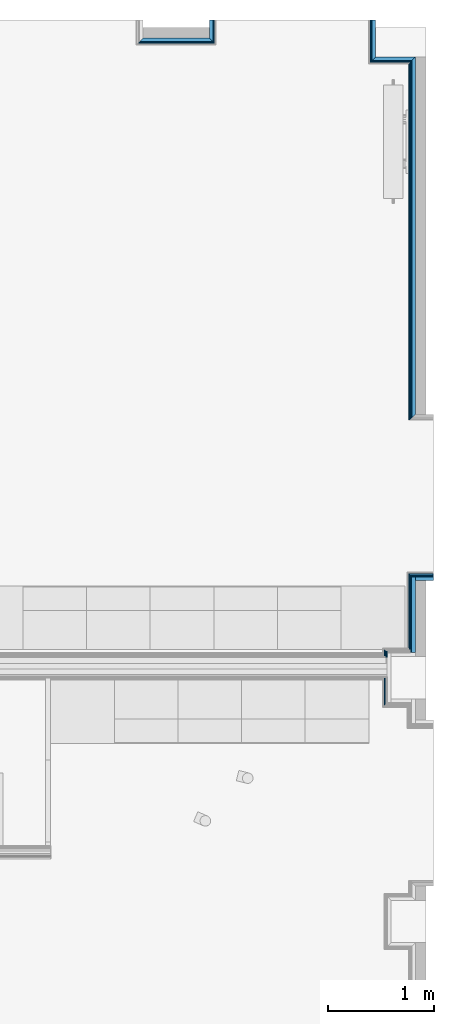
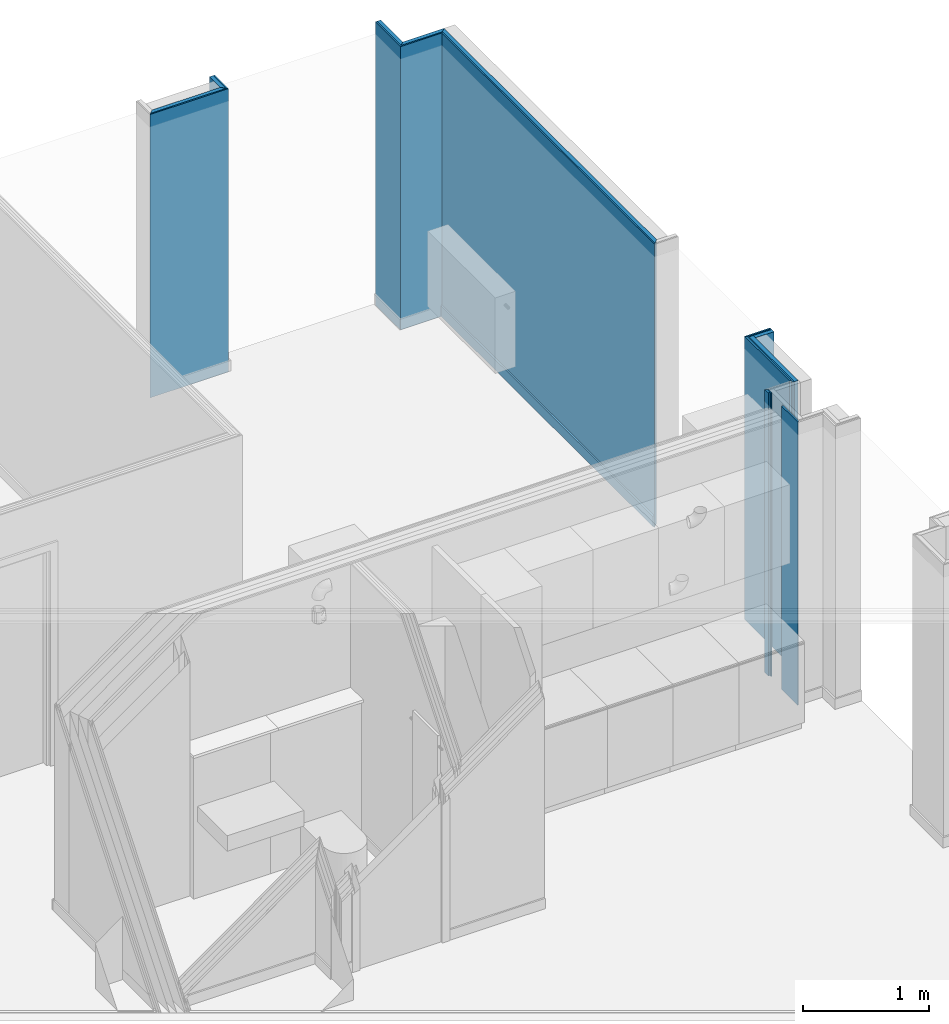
# One storey, part 24 of 85: 20 building element parts, 8 elements without a shape of their own.
"""IFC2X3 building model written with IfcOpenShell, lengths in metres."""

from ifc_helpers import new_model, entity, si_unit, converted_unit, derived_unit, money_unit, direction, frame, frame_2d, origin_with_axes, place, context, subcontext, project, spatial, polyline, rectangle, outline, extrude, material, type_object, element, aggregate, save


model = new_model("IFC2X3")

# Units and contexts
model_context = context("Model", 3, precision=1e-05, world=origin_with_axes(), true_north=direction((0.0, 1.0)))
body_context = subcontext(model_context, "Body", "Model", "MODEL_VIEW", scale=1.0)
ifc_project = project(units=[si_unit("LENGTHUNIT", "METRE"), si_unit("AREAUNIT", "SQUARE_METRE"), si_unit("VOLUMEUNIT", "CUBIC_METRE"), si_unit("ABSORBEDDOSEUNIT", "GRAY"), si_unit("AMOUNTOFSUBSTANCEUNIT", "MOLE"), si_unit("DOSEEQUIVALENTUNIT", "SIEVERT"), si_unit("ELECTRICCAPACITANCEUNIT", "FARAD"), si_unit("ELECTRICCHARGEUNIT", "COULOMB"), si_unit("ELECTRICCONDUCTANCEUNIT", "SIEMENS"), si_unit("ELECTRICCURRENTUNIT", "AMPERE"), si_unit("ELECTRICRESISTANCEUNIT", "OHM"), si_unit("ELECTRICVOLTAGEUNIT", "VOLT"), si_unit("ENERGYUNIT", "JOULE"), si_unit("FORCEUNIT", "NEWTON"), si_unit("FREQUENCYUNIT", "HERTZ"), si_unit("ILLUMINANCEUNIT", "LUX"), si_unit("INDUCTANCEUNIT", "HENRY"), si_unit("LUMINOUSFLUXUNIT", "LUMEN"), si_unit("LUMINOUSINTENSITYUNIT", "CANDELA"), si_unit("MAGNETICFLUXDENSITYUNIT", "TESLA"), si_unit("MAGNETICFLUXUNIT", "WEBER"), si_unit("MASSUNIT", "GRAM"), converted_unit("PLANEANGLEUNIT", "degree", entity("IfcReal", 0.0174532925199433), si_unit("PLANEANGLEUNIT", "RADIAN"), dimensions=[0, 0, 0, 0, 0, 0, 0]), si_unit("POWERUNIT", "WATT"), si_unit("PRESSUREUNIT", "PASCAL"), si_unit("RADIOACTIVITYUNIT", "BECQUEREL"), si_unit("SOLIDANGLEUNIT", "STERADIAN"), si_unit("THERMODYNAMICTEMPERATUREUNIT", "KELVIN"), si_unit("TIMEUNIT", "SECOND"), derived_unit("ACCELERATIONUNIT", [(si_unit("LENGTHUNIT", "METRE"), 1), (si_unit("TIMEUNIT", "SECOND"), -2)]), derived_unit("ANGULARVELOCITYUNIT", [(converted_unit("PLANEANGLEUNIT", "degree", entity("IfcReal", 0.0174532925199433), si_unit("PLANEANGLEUNIT", "RADIAN"), dimensions=[0, 0, 0, 0, 0, 0, 0]), 1), (si_unit("TIMEUNIT", "SECOND"), -1)]), derived_unit("CURVATUREUNIT", [(converted_unit("PLANEANGLEUNIT", "degree", entity("IfcReal", 0.0174532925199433), si_unit("PLANEANGLEUNIT", "RADIAN"), dimensions=[0, 0, 0, 0, 0, 0, 0]), 1), (si_unit("LENGTHUNIT", "METRE"), -1)]), derived_unit("DYNAMICVISCOSITYUNIT", [(si_unit("PRESSUREUNIT", "PASCAL"), 1), (si_unit("TIMEUNIT", "SECOND"), 1)]), derived_unit("HEATFLUXDENSITYUNIT", [(si_unit("POWERUNIT", "WATT"), 1), (si_unit("LENGTHUNIT", "METRE"), -2)]), derived_unit("HEATINGVALUEUNIT", [(si_unit("ENERGYUNIT", "JOULE"), 1), (si_unit("MASSUNIT", "GRAM"), -1)]), derived_unit("INTEGERCOUNTRATEUNIT", [(si_unit("TIMEUNIT", "SECOND"), -1)]), derived_unit("IONCONCENTRATIONUNIT", [(si_unit("MASSUNIT", "GRAM"), 1), (si_unit("VOLUMEUNIT", "CUBIC_METRE"), -1)]), derived_unit("ISOTHERMALMOISTURECAPACITYUNIT", [(si_unit("VOLUMEUNIT", "CUBIC_METRE"), 1), (si_unit("MASSUNIT", "GRAM"), -1)]), derived_unit("KINEMATICVISCOSITYUNIT", [(si_unit("AREAUNIT", "SQUARE_METRE"), 1), (si_unit("TIMEUNIT", "SECOND"), -1)]), derived_unit("LINEARFORCEUNIT", [(si_unit("FORCEUNIT", "NEWTON"), 1), (si_unit("LENGTHUNIT", "METRE"), -1)]), derived_unit("LINEARMOMENTUNIT", [(si_unit("FORCEUNIT", "NEWTON"), 1), (si_unit("LENGTHUNIT", "METRE"), -1)]), derived_unit("LINEARSTIFFNESSUNIT", [(si_unit("FORCEUNIT", "NEWTON"), 1), (si_unit("LENGTHUNIT", "METRE"), -1)]), derived_unit("LINEARVELOCITYUNIT", [(si_unit("LENGTHUNIT", "METRE"), 1), (si_unit("TIMEUNIT", "SECOND"), -1)]), derived_unit("LUMINOUSINTENSITYDISTRIBUTIONUNIT", [(si_unit("LUMINOUSINTENSITYUNIT", "CANDELA"), 1), (si_unit("LUMINOUSFLUXUNIT", "LUMEN"), -1)]), derived_unit("MASSDENSITYUNIT", [(si_unit("MASSUNIT", "GRAM"), 1), (si_unit("VOLUMEUNIT", "CUBIC_METRE"), -1)]), derived_unit("MASSFLOWRATEUNIT", [(si_unit("MASSUNIT", "GRAM"), 1), (si_unit("TIMEUNIT", "SECOND"), -1)]), derived_unit("MASSPERLENGTHUNIT", [(si_unit("MASSUNIT", "GRAM"), 1), (si_unit("LENGTHUNIT", "METRE"), -1)]), derived_unit("MODULUSOFELASTICITYUNIT", [(si_unit("FORCEUNIT", "NEWTON"), 1), (si_unit("AREAUNIT", "SQUARE_METRE"), -1)]), derived_unit("MODULUSOFLINEARSUBGRADEREACTIONUNIT", [(si_unit("FORCEUNIT", "NEWTON"), 1), (si_unit("LENGTHUNIT", "METRE"), -2)]), derived_unit("MODULUSOFROTATIONALSUBGRADEREACTIONUNIT", [(si_unit("FORCEUNIT", "NEWTON"), 1), (si_unit("LENGTHUNIT", "METRE"), 1)]), derived_unit("MODULUSOFSUBGRADEREACTIONUNIT", [(si_unit("FORCEUNIT", "NEWTON"), 1), (si_unit("VOLUMEUNIT", "CUBIC_METRE"), -1)]), derived_unit("MOISTUREDIFFUSIVITYUNIT", [(si_unit("VOLUMEUNIT", "CUBIC_METRE"), 1), (si_unit("TIMEUNIT", "SECOND"), -1)]), derived_unit("MOLECULARWEIGHTUNIT", [(si_unit("MASSUNIT", "GRAM"), 1), (si_unit("AMOUNTOFSUBSTANCEUNIT", "MOLE"), -1)]), derived_unit("PLANARFORCEUNIT", [(si_unit("FORCEUNIT", "NEWTON"), 1), (si_unit("LENGTHUNIT", "METRE"), -2)]), derived_unit("ROTATIONALFREQUENCYUNIT", [(si_unit("TIMEUNIT", "SECOND"), -1)]), derived_unit("ROTATIONALMASSUNIT", [(si_unit("MASSUNIT", "GRAM"), 1), (si_unit("LENGTHUNIT", "METRE"), 2)]), derived_unit("ROTATIONALSTIFFNESSUNIT", [(si_unit("FORCEUNIT", "NEWTON"), 1), (si_unit("LENGTHUNIT", "METRE"), 1), (converted_unit("PLANEANGLEUNIT", "degree", entity("IfcReal", 0.0174532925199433), si_unit("PLANEANGLEUNIT", "RADIAN"), dimensions=[0, 0, 0, 0, 0, 0, 0]), -1)]), derived_unit("SECTIONAREAINTEGRALUNIT", [(si_unit("LENGTHUNIT", "METRE"), 5)]), derived_unit("SECTIONMODULUSUNIT", [(si_unit("LENGTHUNIT", "METRE"), 3)]), derived_unit("SHEARMODULUSUNIT", [(si_unit("FORCEUNIT", "NEWTON"), 1), (si_unit("AREAUNIT", "SQUARE_METRE"), -1)]), derived_unit("SOUNDPOWERUNIT", [(si_unit("ENERGYUNIT", "JOULE"), 1), (si_unit("TIMEUNIT", "SECOND"), -1)]), derived_unit("SPECIFICHEATCAPACITYUNIT", [(si_unit("FORCEUNIT", "NEWTON"), 1), (si_unit("MASSUNIT", "GRAM"), -1), (si_unit("THERMODYNAMICTEMPERATUREUNIT", "KELVIN"), -1)]), derived_unit("TEMPERATUREGRADIENTUNIT", [(si_unit("THERMODYNAMICTEMPERATUREUNIT", "KELVIN"), 1), (si_unit("LENGTHUNIT", "METRE"), -1)]), derived_unit("THERMALADMITTANCEUNIT", [(si_unit("POWERUNIT", "WATT"), 1), (si_unit("AREAUNIT", "SQUARE_METRE"), -1), (si_unit("THERMODYNAMICTEMPERATUREUNIT", "KELVIN"), -1)]), derived_unit("THERMALCONDUCTANCEUNIT", [(si_unit("POWERUNIT", "WATT"), 1), (si_unit("LENGTHUNIT", "METRE"), -1), (si_unit("THERMODYNAMICTEMPERATUREUNIT", "KELVIN"), -1)]), derived_unit("THERMALEXPANSIONCOEFFICIENTUNIT", [(si_unit("THERMODYNAMICTEMPERATUREUNIT", "KELVIN"), -1)]), derived_unit("THERMALRESISTANCEUNIT", [(si_unit("AREAUNIT", "SQUARE_METRE"), 1), (si_unit("POWERUNIT", "WATT"), -1)]), derived_unit("THERMALTRANSMITTANCEUNIT", [(si_unit("POWERUNIT", "WATT"), 1), (si_unit("AREAUNIT", "SQUARE_METRE"), -1), (si_unit("THERMODYNAMICTEMPERATUREUNIT", "KELVIN"), -1)]), derived_unit("TORQUEUNIT", [(si_unit("FORCEUNIT", "NEWTON"), 1), (si_unit("LENGTHUNIT", "METRE"), 1)]), derived_unit("VAPORPERMEABILITYUNIT", [(si_unit("MASSUNIT", "GRAM"), 1), (si_unit("TIMEUNIT", "SECOND"), -1)]), derived_unit("VOLUMETRICFLOWRATEUNIT", [(si_unit("VOLUMEUNIT", "CUBIC_METRE"), 1), (si_unit("TIMEUNIT", "SECOND"), -1)]), derived_unit("WARPINGCONSTANTUNIT", [(si_unit("LENGTHUNIT", "METRE"), 6)]), derived_unit("WARPINGMOMENTUNIT", [(si_unit("FORCEUNIT", "NEWTON"), 1), (si_unit("LENGTHUNIT", "METRE"), 2)]), money_unit("GBP")], contexts=[model_context])

# Site, building, storey
site_placement = place(None, origin_with_axes())
site = spatial("IfcSite", under=ifc_project, at=site_placement, Name="Site", CompositionType="ELEMENT")
building_placement = place(site_placement, origin_with_axes())
building = spatial("IfcBuilding", under=site, at=building_placement, Name="Building01", CompositionType="ELEMENT")
storey_placement = place(building_placement, frame((0.0, 0.0, 12.13), z_axis=(0.0, 0.0, 1.0), x_axis=(1.0, 0.0, 0.0)))
storey = spatial("IfcBuildingStorey", under=building, at=storey_placement, Name="3F", CompositionType="ELEMENT", Elevation=12.13)

# Wall, building element parts
wall_type_1 = type_object("IfcWallType", Name="SHE_A-Walls_Type06d_ExternalWallInsulation_48mm", PredefinedType="NOTDEFINED")
wall_1_placement = place(storey_placement, frame((24.767, 14.8, 0.0), z_axis=(0.0, 0.0, 1.0), x_axis=(0.0, -1.0, 0.0)))
wall_1 = element("IfcWall", 1, at=wall_1_placement, inside=storey, type_object=wall_type_1, Name="6D", ObjectType="SHE_A-Walls_Type06d_ExternalWallInsulation_48mm")
ifc_material_1 = material(Name="A_BSUK_Insulation")
placement_1 = place(wall_1_placement, origin_with_axes())
building_element_part_1 = element("IfcBuildingElementPart", 2, at=placement_1, material=ifc_material_1, Name="1", context=body_context, shape_type="SweptSolid", body=[
    extrude(outline(polyline([(0.206, 0.036), (0.0, 0.036), (0.0, 0.0), (0.17, 0.0), (0.206, 0.036)])), origin_with_axes(), (0.0, 0.0, 1.0), 2.74),
])
ifc_material_2 = material(Name="A_BSUK_WallInternal_Finishes_Plasterboard")
building_element_part_2 = element("IfcBuildingElementPart", 3, at=placement_1, material=ifc_material_2, Name="2", context=body_context, shape_type="SweptSolid", body=[
    extrude(outline(polyline([(0.218, 0.048), (0.0, 0.048), (0.0, 0.035), (0.205, 0.035), (0.218, 0.048)])), origin_with_axes(), (0.0, 0.0, 1.0), 2.74),
])
aggregate(wall_1, [building_element_part_1, building_element_part_2])

wall_2_placement = place(storey_placement, frame((24.767, 14.63, 0.0), z_axis=(0.0, 0.0, 1.0), x_axis=(-1.0, 0.0, 0.0)))
wall_2 = element("IfcWall", 4, at=wall_2_placement, inside=storey, type_object=wall_type_1, Name="6D", ObjectType="SHE_A-Walls_Type06d_ExternalWallInsulation_48mm")
placement_2 = place(wall_2_placement, origin_with_axes())
building_element_part_3 = element("IfcBuildingElementPart", 5, at=placement_2, material=ifc_material_1, Name="1", context=body_context, shape_type="SweptSolid", body=[
    extrude(outline(polyline([(0.66, 0.036), (-0.036, 0.036), (0.0, 0.0), (0.624, 0.0), (0.66, 0.036)])), origin_with_axes(), (0.0, 0.0, 1.0), 2.74),
])
building_element_part_4 = element("IfcBuildingElementPart", 6, at=placement_2, material=ifc_material_2, Name="2", context=body_context, shape_type="SweptSolid", body=[
    extrude(outline(polyline([(0.672, 0.048), (-0.048, 0.048), (-0.035, 0.035), (0.659, 0.035), (0.672, 0.048)])), origin_with_axes(), (0.0, 0.0, 1.0), 2.74),
])
aggregate(wall_2, [building_element_part_3, building_element_part_4])

wall_3_placement = place(storey_placement, frame((26.71, 11.08018, 0.0), z_axis=(0.0, 0.0, 1.0), x_axis=(0.0, 1.0, 0.0)))
wall_3 = element("IfcWall", 7, at=wall_3_placement, inside=storey, type_object=wall_type_1, Name="6D", ObjectType="SHE_A-Walls_Type06d_ExternalWallInsulation_48mm")
placement_3 = place(wall_3_placement, origin_with_axes())
building_element_part_5 = element("IfcBuildingElementPart", 8, at=placement_3, material=ifc_material_1, Name="1", context=body_context, shape_type="SweptSolid", body=[
    extrude(outline(polyline([(3.33382, 0.036), (-0.036, 0.036), (0.0, 0.0), (3.36982, 0.0), (3.33382, 0.036)])), origin_with_axes(), (0.0, 0.0, 1.0), 2.74),
])
building_element_part_6 = element("IfcBuildingElementPart", 9, at=placement_3, material=ifc_material_2, Name="2", context=body_context, shape_type="SweptSolid", body=[
    extrude(outline(polyline([(3.32182, 0.048), (-0.048, 0.048), (-0.035, 0.035), (3.33482, 0.035), (3.32182, 0.048)])), origin_with_axes(), (0.0, 0.0, 1.0), 2.74),
])
ifc_material_3 = material(Name="A_BSUK_Walls_Timber")
building_element_part_7 = element("IfcBuildingElementPart", 10, at=placement_3, material=ifc_material_3, Name="3", context=body_context, shape_type="SweptSolid", body=[
    extrude(outline(polyline([(3.30682, 0.063), (-0.048, 0.063), (-0.048, 0.048), (3.32182, 0.048), (3.30682, 0.063)])), frame((0.0, 0.0, 0.015), z_axis=(0.0, 0.0, 1.0), x_axis=(1.0, 0.0, 0.0)), (0.0, 0.0, 1.0), 0.1),
])
aggregate(wall_3, [building_element_part_5, building_element_part_6, building_element_part_7])

wall_4_placement = place(storey_placement, frame((26.71, 14.45, 0.0), z_axis=(0.0, 0.0, 1.0), x_axis=(-1.0, 0.0, 0.0)))
wall_4 = element("IfcWall", 11, at=wall_4_placement, inside=storey, type_object=wall_type_1, Name="6D", ObjectType="SHE_A-Walls_Type06d_ExternalWallInsulation_48mm")
placement_4 = place(wall_4_placement, origin_with_axes())
building_element_part_8 = element("IfcBuildingElementPart", 12, at=placement_4, material=ifc_material_1, Name="1", context=body_context, shape_type="SweptSolid", body=[
    extrude(outline(polyline([(0.413, 0.036), (0.036, 0.036), (0.0, 0.0), (0.377, 0.0), (0.413, 0.036)])), origin_with_axes(), (0.0, 0.0, 1.0), 2.74),
])
building_element_part_9 = element("IfcBuildingElementPart", 13, at=placement_4, material=ifc_material_2, Name="2", context=body_context, shape_type="SweptSolid", body=[
    extrude(outline(polyline([(0.425, 0.048), (0.048, 0.048), (0.035, 0.035), (0.412, 0.035), (0.425, 0.048)])), origin_with_axes(), (0.0, 0.0, 1.0), 2.74),
])
aggregate(wall_4, [building_element_part_8, building_element_part_9])

wall_5_placement = place(storey_placement, frame((26.333, 14.45, 0.0), z_axis=(0.0, 0.0, 1.0), x_axis=(0.0, 1.0, 0.0)))
wall_5 = element("IfcWall", 14, at=wall_5_placement, inside=storey, type_object=wall_type_1, Name="6D", ObjectType="SHE_A-Walls_Type06d_ExternalWallInsulation_48mm")
placement_5 = place(wall_5_placement, origin_with_axes())
building_element_part_10 = element("IfcBuildingElementPart", 15, at=placement_5, material=ifc_material_1, Name="1", context=body_context, shape_type="SweptSolid", body=[
    extrude(outline(polyline([(-0.036, 0.036), (0.0, 0.0), (0.35, 0.0), (0.35, 0.036), (-0.036, 0.036)])), origin_with_axes(), (0.0, 0.0, 1.0), 2.74),
])
building_element_part_11 = element("IfcBuildingElementPart", 16, at=placement_5, material=ifc_material_2, Name="2", context=body_context, shape_type="SweptSolid", body=[
    extrude(outline(polyline([(-0.048, 0.048), (-0.035, 0.035), (0.35, 0.035), (0.35, 0.048), (-0.048, 0.048)])), origin_with_axes(), (0.0, 0.0, 1.0), 2.74),
])
aggregate(wall_5, [building_element_part_10, building_element_part_11])

wall_type_2 = type_object("IfcWallType", Name="SHE_A-Walls_Type06f_ExternalWallInsulation_48+15mm", PredefinedType="NOTDEFINED")
wall_6_placement = place(storey_placement, frame((26.879178, 9.51418, 0.0), z_axis=(0.0, 0.0, 1.0), x_axis=(1.0, 0.0, 0.0)))
wall_6 = element("IfcWall", 17, at=wall_6_placement, inside=storey, type_object=wall_type_2, Name="6F", ObjectType="SHE_A-Walls_Type06f_ExternalWallInsulation_48+15mm")
placement_6 = place(wall_6_placement, origin_with_axes())
building_element_part_12 = element("IfcBuildingElementPart", 18, at=placement_6, material=ifc_material_1, Name="1", context=body_context, shape_type="SweptSolid", body=[
    extrude(rectangle(XDim=0.17, YDim=0.036, at=frame_2d((-0.085, 0.018), x_axis=(1.0, 0.0))), origin_with_axes(), (0.0, 0.0, 1.0), 2.74),
])
building_element_part_13 = element("IfcBuildingElementPart", 19, at=placement_6, material=ifc_material_2, Name="2", context=body_context, shape_type="SweptSolid", body=[
    extrude(rectangle(XDim=0.206, YDim=0.012, at=frame_2d((-0.103, 0.042), x_axis=(1.0, 0.0))), origin_with_axes(), (0.0, 0.0, 1.0), 2.74),
])
building_element_part_14 = element("IfcBuildingElementPart", 20, at=placement_6, material=ifc_material_2, Name="3", context=body_context, shape_type="SweptSolid", body=[
    extrude(outline(polyline([(-0.218, 0.048), (0.0, 0.048), (0.0, 0.063), (-0.233, 0.063), (-0.218, 0.048)])), origin_with_axes(), (0.0, 0.0, 1.0), 2.74),
])
aggregate(wall_6, [building_element_part_12, building_element_part_13, building_element_part_14])

wall_7_placement = place(storey_placement, frame((26.709178, 8.836, 0.0), z_axis=(0.0, 0.0, 1.0), x_axis=(0.0, -1.0, 0.0)))
wall_7 = element("IfcWall", 21, at=wall_7_placement, inside=storey, type_object=wall_type_2, Name="6F", ObjectType="SHE_A-Walls_Type06f_ExternalWallInsulation_48+15mm")
placement_7 = place(wall_7_placement, origin_with_axes())
building_element_part_15 = element("IfcBuildingElementPart", 22, at=placement_7, material=ifc_material_2, Name="2", context=body_context, shape_type="SweptSolid", body=[
    extrude(outline(polyline([(-0.74118, -0.063), (-0.027, -0.063), (-0.027, -0.048), (-0.72618, -0.048), (-0.74118, -0.063)])), origin_with_axes(), (0.0, 0.0, 1.0), 2.74),
])
building_element_part_16 = element("IfcBuildingElementPart", 23, at=placement_7, material=ifc_material_2, Name="3", context=body_context, shape_type="SweptSolid", body=[
    extrude(rectangle(XDim=0.72618, YDim=0.012, at=frame_2d((-0.36309, -0.042), x_axis=(1.0, 0.0))), origin_with_axes(), (0.0, 0.0, 1.0), 2.74),
])
building_element_part_17 = element("IfcBuildingElementPart", 24, at=placement_7, material=ifc_material_1, Name="4", context=body_context, shape_type="SweptSolid", body=[
    extrude(rectangle(XDim=0.71418, YDim=0.036, at=frame_2d((-0.35709, -0.018), x_axis=(1.0, 0.0))), origin_with_axes(), (0.0, 0.0, 1.0), 2.74),
])
aggregate(wall_7, [building_element_part_15, building_element_part_16, building_element_part_17])

wall_8_placement = place(storey_placement, frame((26.48, 8.361548, 0.0), z_axis=(0.0, 0.0, 1.0), x_axis=(0.0, 1.0, 0.0)))
wall_8 = element("IfcWall", 25, at=wall_8_placement, inside=storey, type_object=wall_type_2, Name="6F", ObjectType="SHE_A-Walls_Type06f_ExternalWallInsulation_48+15mm")
placement_8 = place(wall_8_placement, origin_with_axes())
building_element_part_18 = element("IfcBuildingElementPart", 26, at=placement_8, material=ifc_material_2, Name="3", context=body_context, shape_type="SweptSolid", body=[
    extrude(rectangle(XDim=0.058, YDim=0.012, at=frame_2d((0.457452, 0.042), x_axis=(-1.0, 0.0))), origin_with_axes(), (0.0, 0.0, 1.0), 2.74),
])
building_element_part_19 = element("IfcBuildingElementPart", 27, at=placement_8, material=ifc_material_2, Name="4", context=body_context, shape_type="SweptSolid", body=[
    extrude(outline(polyline([(0.233452, 0.063), (-0.027, 0.063), (-0.012, 0.048), (0.233452, 0.048), (0.233452, 0.063)])), origin_with_axes(), (0.0, 0.0, 1.0), 2.74),
])
building_element_part_20 = element("IfcBuildingElementPart", 28, at=placement_8, material=ifc_material_2, Name="5", context=body_context, shape_type="SweptSolid", body=[
    extrude(outline(polyline([(0.501452, 0.063), (0.443452, 0.063), (0.443452, 0.048), (0.486452, 0.048), (0.501452, 0.063)])), origin_with_axes(), (0.0, 0.0, 1.0), 2.74),
])
aggregate(wall_8, [building_element_part_18, building_element_part_19, building_element_part_20])

save(model, "model.ifc")
